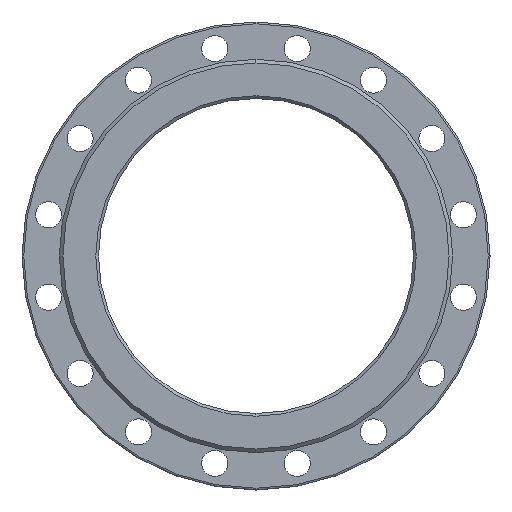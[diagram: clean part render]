
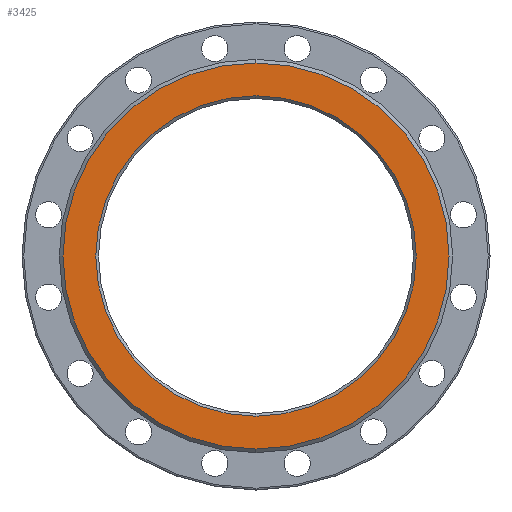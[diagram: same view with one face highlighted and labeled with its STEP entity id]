
A CAD part, left-side view. The second image highlights one B-rep face of the part: STEP entity #3425.
In plain terms, the highlighted planar face has unit normal (-1, 0, 0).
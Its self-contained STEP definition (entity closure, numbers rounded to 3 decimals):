
#362 = VERTEX_POINT ( 'NONE', #2842 ) ;
#418 = ORIENTED_EDGE ( 'NONE', *, *, #3967, .T. ) ;
#429 = CIRCLE ( 'NONE', #1250, 178. ) ;
#589 = CARTESIAN_POINT ( 'NONE',  ( -350., 0., 214.5 ) ) ;
#624 = DIRECTION ( 'NONE',  ( 0., 0., 1. ) ) ;
#650 = DIRECTION ( 'NONE',  ( 1., 0., 0. ) ) ;
#663 = ORIENTED_EDGE ( 'NONE', *, *, #2480, .T. ) ;
#889 = DIRECTION ( 'NONE',  ( 0., 0., -1. ) ) ;
#1250 = AXIS2_PLACEMENT_3D ( 'NONE', #5042, #3718, #3228 ) ;
#1447 = AXIS2_PLACEMENT_3D ( 'NONE', #1930, #3682, #2526 ) ;
#1503 = CARTESIAN_POINT ( 'NONE',  ( -350., 0., 0. ) ) ;
#1507 = EDGE_CURVE ( 'Defeatured_0_3+Defeatured_0_96+Defeatured_0_96+Defeatured_0_96', #4366, #362, #429, .T. ) ;
#1904 = AXIS2_PLACEMENT_3D ( 'NONE', #3489, #3919, #889 ) ;
#1910 = AXIS2_PLACEMENT_3D ( 'NONE', #1503, #4465, #624 ) ;
#1914 = VERTEX_POINT ( 'NONE', #5215 ) ;
#1930 = CARTESIAN_POINT ( 'NONE',  ( -350., 0., 0. ) ) ;
#2352 = CIRCLE ( 'NONE', #1447, 214.5 ) ;
#2480 = EDGE_CURVE ( 'Defeatured_0_3+Defeatured_0_4+Defeatured_0_4+Defeatured_0_4', #1914, #5192, #2352, .T. ) ;
#2526 = DIRECTION ( 'NONE',  ( 0., 0., 1. ) ) ;
#2627 = FACE_OUTER_BOUND ( 'NONE', #3456, .T. ) ;
#2712 = FACE_BOUND ( 'NONE', #5299, .T. ) ;
#2842 = CARTESIAN_POINT ( 'NONE',  ( -350., 0., -178. ) ) ;
#3189 = CIRCLE ( 'NONE', #1910, 214.5 ) ;
#3228 = DIRECTION ( 'NONE',  ( 0., 0., -1. ) ) ;
#3324 = DIRECTION ( 'NONE',  ( 0., 0., -1. ) ) ;
#3425 = ADVANCED_FACE ( 'Defeatured_0_3', ( #2712, #2627 ), #4785, .F. ) ;
#3456 = EDGE_LOOP ( 'NONE', ( #663, #418 ) ) ;
#3489 = CARTESIAN_POINT ( 'NONE',  ( -350., 175., 0. ) ) ;
#3669 = CARTESIAN_POINT ( 'NONE',  ( -350., 0., 178. ) ) ;
#3682 = DIRECTION ( 'NONE',  ( -1., 0., 0. ) ) ;
#3718 = DIRECTION ( 'NONE',  ( 1., 0., 0. ) ) ;
#3800 = ORIENTED_EDGE ( 'NONE', *, *, #5413, .T. ) ;
#3919 = DIRECTION ( 'NONE',  ( 1., 0., 0. ) ) ;
#3967 = EDGE_CURVE ( 'Defeatured_0_3+Defeatured_0_4+Defeatured_0_4+Defeatured_0_4', #5192, #1914, #3189, .T. ) ;
#4366 = VERTEX_POINT ( 'NONE', #3669 ) ;
#4465 = DIRECTION ( 'NONE',  ( -1., 0., 0. ) ) ;
#4545 = CARTESIAN_POINT ( 'NONE',  ( -350., 0., 0. ) ) ;
#4561 = AXIS2_PLACEMENT_3D ( 'NONE', #4545, #650, #3324 ) ;
#4785 = PLANE ( 'NONE',  #1904 ) ;
#5013 = ORIENTED_EDGE ( 'NONE', *, *, #1507, .T. ) ;
#5042 = CARTESIAN_POINT ( 'NONE',  ( -350., 0., 0. ) ) ;
#5192 = VERTEX_POINT ( 'NONE', #589 ) ;
#5215 = CARTESIAN_POINT ( 'NONE',  ( -350., 0., -214.5 ) ) ;
#5299 = EDGE_LOOP ( 'NONE', ( #5013, #3800 ) ) ;
#5376 = CIRCLE ( 'NONE', #4561, 178. ) ;
#5413 = EDGE_CURVE ( 'Defeatured_0_3+Defeatured_0_96+Defeatured_0_96+Defeatured_0_96', #362, #4366, #5376, .T. ) ;
